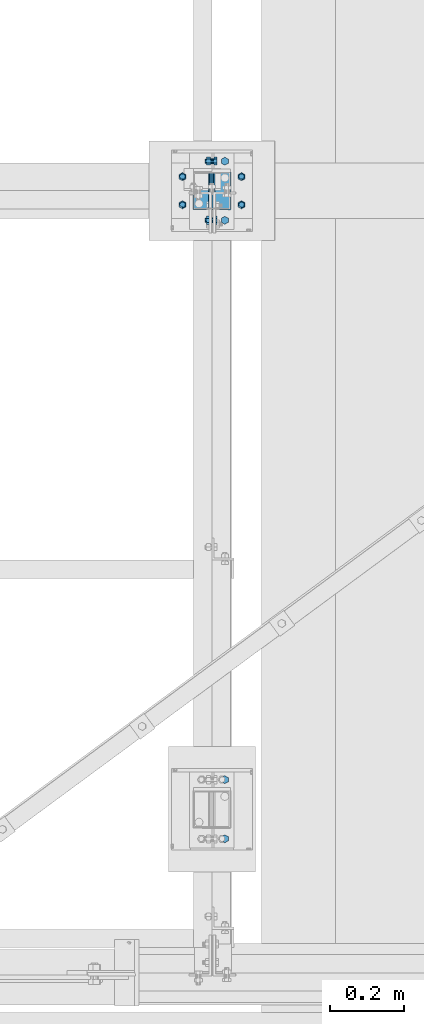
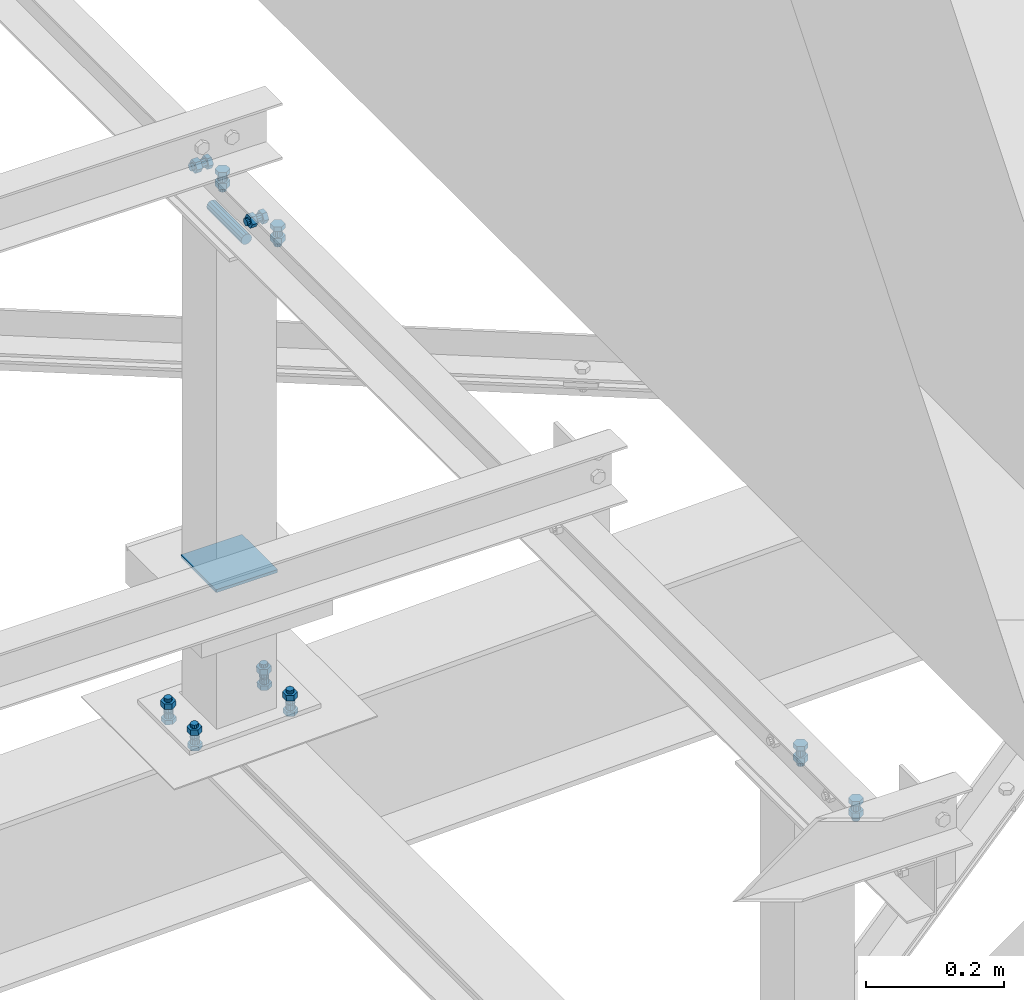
# One storey, part 19 of 3134: 7 mechanical fasteners, 5 elements without a shape of their own.
"""IFC2X3 building model written with IfcOpenShell, lengths in millimetres."""

from ifc_helpers import new_model, si_unit, frame, origin_with_axes, place, context, subcontext, project, spatial, faceted_brep, source, transform, mapped, material, type_object, element, aggregate, save


model = new_model("IFC2X3")

# Units and contexts
model_context = context("Model", 3, precision=1e-05, world=origin_with_axes())
body_context = subcontext(model_context, "Body", "Model", "MODEL_VIEW")
ifc_project = project(units=[si_unit("LENGTHUNIT", "METRE", prefix="MILLI"), si_unit("AREAUNIT", "SQUARE_METRE"), si_unit("VOLUMEUNIT", "CUBIC_METRE"), si_unit("MASSUNIT", "GRAM", prefix="KILO"), si_unit("TIMEUNIT", "SECOND"), si_unit("PLANEANGLEUNIT", "RADIAN"), si_unit("SOLIDANGLEUNIT", "STERADIAN"), si_unit("THERMODYNAMICTEMPERATUREUNIT", "DEGREE_CELSIUS"), si_unit("LUMINOUSINTENSITYUNIT", "LUMEN")], contexts=[model_context])

# Site, building, storey
site_placement = place(None, origin_with_axes())
site = spatial("IfcSite", under=ifc_project, at=site_placement, CompositionType="ELEMENT")
building_placement = place(site_placement, origin_with_axes())
building = spatial("IfcBuilding", under=site, at=building_placement, Name="Undefined", CompositionType="ELEMENT")
storey_placement = place(building_placement, origin_with_axes())
storey = spatial("IfcBuildingStorey", under=building, at=storey_placement, Name="Undefined", CompositionType="ELEMENT", Elevation=0.0)

# Assembly, mechanical fastener
assembly_1_placement = place(storey_placement, origin_with_axes())
assembly_1 = element("IfcElementAssembly", 1, at=assembly_1_placement, inside=storey, AssemblyPlace="NOTDEFINED", PredefinedType="RIGID_FRAME")
ifc_material_1 = material(Name="8.8")
mechanical_fastener_type = type_object("IfcMechanicalFastenerType", Name="Bolt assembly")
shared_shape_1 = source(origin_with_axes(), body_context, "Body", "Brep", [
    faceted_brep([(10.9696551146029, -14.0, 0.0), (5.48482755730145, -14.0, 9.5), (-5.48482755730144, -14.0, 9.5), (-10.9696551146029, -14.0, 1.34339530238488e-15), (-5.48482755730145, -14.0, -9.5), (5.48482755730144, -14.0, -9.50000000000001), (5.48482755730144, -6.0, -9.50000000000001), (-5.48482755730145, -6.0, -9.5), (-10.9696551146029, -6.0, 1.34339530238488e-15), (-5.48482755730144, -6.0, 9.5), (5.48482755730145, -6.0, 9.5), (10.9696551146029, -6.0, 0.0), (6.0, -6.0, 0.0), (5.19615242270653, -6.0, 3.00000000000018), (2.99999999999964, -6.0, 5.19615242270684), (-6.21801588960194e-13, -6.0, 6.0), (-3.00000000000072, -6.0, 5.19615242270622), (-5.19615242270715, -6.0, 2.9999999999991), (-6.0, -6.0, -1.24360317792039e-12), (-5.19615242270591, -6.0, -3.00000000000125), (-2.99999999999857, -6.0, -5.19615242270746), (1.85874342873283e-12, -6.0, -6.0), (3.00000000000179, -6.0, -5.1961524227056), (5.19615242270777, -6.0, -2.99999999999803), (5.19615242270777, 24.0, -2.99999999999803), (3.00000000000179, 24.0, -5.1961524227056), (1.85874342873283e-12, 24.0, -6.0), (-2.99999999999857, 24.0, -5.19615242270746), (-5.19615242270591, 24.0, -3.00000000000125), (-6.0, 24.0, -1.24360317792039e-12), (-5.19615242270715, 24.0, 2.9999999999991), (-3.00000000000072, 24.0, 5.19615242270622), (-6.21801588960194e-13, 24.0, 6.0), (2.99999999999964, 24.0, 5.19615242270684), (5.19615242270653, 24.0, 3.00000000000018), (6.0, 24.0, 0.0), (10.9696551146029, 6.00000000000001, 0.0), (5.48482755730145, 6.00000000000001, 9.5), (-5.48482755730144, 6.00000000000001, 9.5), (-10.9696551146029, 6.00000000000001, 1.34339530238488e-15), (-5.48482755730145, 6.00000000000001, -9.5), (5.48482755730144, 6.00000000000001, -9.50000000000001), (5.48482755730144, 16.0, -9.50000000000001), (-5.48482755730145, 16.0, -9.5), (-10.9696551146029, 16.0, 1.34339530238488e-15), (-5.48482755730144, 16.0, 9.5), (5.48482755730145, 16.0, 9.5), (10.9696551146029, 16.0, 0.0)], [[[0, 1, 2, 3, 4, 5]], [[6, 7, 8, 9, 10, 11]], [[0, 11, 10, 1]], [[1, 10, 9, 2]], [[2, 9, 8, 3]], [[3, 8, 7, 4]], [[4, 7, 6, 5]], [[5, 6, 11, 0]], [[12, 13, 14, 15, 16, 17, 18, 19, 20, 21, 22, 23]], [[24, 25, 26, 27, 28, 29, 30, 31, 32, 33, 34, 35]], [[12, 35, 34, 13]], [[13, 34, 33, 14]], [[14, 33, 32, 15]], [[15, 32, 31, 16]], [[16, 31, 30, 17]], [[17, 30, 29, 18]], [[18, 29, 28, 19]], [[19, 28, 27, 20]], [[20, 27, 26, 21]], [[21, 26, 25, 22]], [[22, 25, 24, 23]], [[23, 24, 35, 12]], [[36, 37, 38, 39, 40, 41]], [[42, 43, 44, 45, 46, 47]], [[36, 47, 46, 37]], [[37, 46, 45, 38]], [[38, 45, 44, 39]], [[39, 44, 43, 40]], [[40, 43, 42, 41]], [[41, 42, 47, 36]]]),
    faceted_brep([(7.0, -5.9, 0.0), (6.06217782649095, -5.9, 3.50000000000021), (3.49999999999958, -5.9, 6.06217782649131), (-7.25435187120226e-13, -5.9, 7.0), (-3.50000000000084, -5.9, 6.06217782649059), (-6.06217782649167, -5.9, 3.49999999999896), (-7.0, -5.9, -1.45087037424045e-12), (-6.06217782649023, -5.9, -3.50000000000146), (-3.49999999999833, -5.9, -6.06217782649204), (2.1685340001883e-12, -5.9, -7.0), (3.50000000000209, -5.9, -6.06217782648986), (6.0621778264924, -5.9, -3.4999999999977), (6.0621778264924, 0.0999999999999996, -3.4999999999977), (3.50000000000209, 0.0999999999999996, -6.06217782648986), (2.1685340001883e-12, 0.0999999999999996, -7.0), (-3.49999999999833, 0.0999999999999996, -6.06217782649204), (-6.06217782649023, 0.0999999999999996, -3.50000000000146), (-7.0, 0.0999999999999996, -1.45087037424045e-12), (-6.06217782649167, 0.0999999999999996, 3.49999999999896), (-3.50000000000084, 0.0999999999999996, 6.06217782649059), (-7.25435187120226e-13, 0.0999999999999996, 7.0), (3.49999999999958, 0.0999999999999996, 6.06217782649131), (6.06217782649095, 0.0999999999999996, 3.50000000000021), (7.0, 0.0999999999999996, 0.0), (7.0, -0.1, 0.0), (6.06217782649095, -0.1, 3.50000000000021), (3.49999999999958, -0.1, 6.06217782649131), (-7.25435187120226e-13, -0.1, 7.0), (-3.50000000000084, -0.1, 6.06217782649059), (-6.06217782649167, -0.1, 3.49999999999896), (-7.0, -0.1, -1.45087037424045e-12), (-6.06217782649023, -0.1, -3.50000000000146), (-3.49999999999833, -0.1, -6.06217782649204), (2.1685340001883e-12, -0.1, -7.0), (3.50000000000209, -0.1, -6.06217782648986), (6.0621778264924, -0.1, -3.4999999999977), (6.0621778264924, 6.00000000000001, -3.4999999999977), (3.50000000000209, 6.00000000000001, -6.06217782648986), (2.1685340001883e-12, 6.00000000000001, -7.0), (-3.49999999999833, 6.00000000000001, -6.06217782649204), (-6.06217782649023, 6.00000000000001, -3.50000000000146), (-7.0, 6.00000000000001, -1.45087037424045e-12), (-6.06217782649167, 6.00000000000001, 3.49999999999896), (-3.50000000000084, 6.00000000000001, 6.06217782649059), (-7.25435187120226e-13, 6.00000000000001, 7.0), (3.49999999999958, 6.00000000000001, 6.06217782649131), (6.06217782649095, 6.00000000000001, 3.50000000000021), (7.0, 6.00000000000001, 0.0)], [[[0, 1, 2, 3, 4, 5, 6, 7, 8, 9, 10, 11]], [[12, 13, 14, 15, 16, 17, 18, 19, 20, 21, 22, 23]], [[0, 23, 22, 1]], [[1, 22, 21, 2]], [[2, 21, 20, 3]], [[3, 20, 19, 4]], [[4, 19, 18, 5]], [[5, 18, 17, 6]], [[6, 17, 16, 7]], [[7, 16, 15, 8]], [[8, 15, 14, 9]], [[9, 14, 13, 10]], [[10, 13, 12, 11]], [[11, 12, 23, 0]], [[24, 25, 26, 27, 28, 29, 30, 31, 32, 33, 34, 35]], [[36, 37, 38, 39, 40, 41, 42, 43, 44, 45, 46, 47]], [[24, 47, 46, 25]], [[25, 46, 45, 26]], [[26, 45, 44, 27]], [[27, 44, 43, 28]], [[28, 43, 42, 29]], [[29, 42, 41, 30]], [[30, 41, 40, 31]], [[31, 40, 39, 32]], [[32, 39, 38, 33]], [[33, 38, 37, 34]], [[34, 37, 36, 35]], [[35, 36, 47, 24]]]),
])
mechanical_fastener_1_placement = place(assembly_1_placement, frame((10440.0, 11305.0, 4265.0), z_axis=(-1.0, 0.0, 0.0), x_axis=(0.0, 1.0, 0.0)))
mechanical_fastener_1 = element("IfcMechanicalFastener", 2, at=mechanical_fastener_1_placement, type_object=mechanical_fastener_type, material=ifc_material_1, Name="Bolt assembly", NominalDiameter=12.0, NominalLength=30.0, context=body_context, shape_type="MappedRepresentation", body=[
    mapped(shared_shape_1, transform((0.0, 0.0, 0.0))),
    mapped(shared_shape_1, transform((160.0, 0.0, 0.0))),
])
aggregate(assembly_1, [mechanical_fastener_1])

assembly_2_placement = place(storey_placement, origin_with_axes())
assembly_2 = element("IfcElementAssembly", 3, at=assembly_2_placement, inside=storey, AssemblyPlace="NOTDEFINED", PredefinedType="RIGID_FRAME")
mechanical_fastener_2_placement = place(assembly_2_placement, frame((10440.0, 12980.0, 4265.0), z_axis=(-1.0, 0.0, 0.0), x_axis=(0.0, 1.0, 0.0)))
mechanical_fastener_2 = element("IfcMechanicalFastener", 4, at=mechanical_fastener_2_placement, type_object=mechanical_fastener_type, material=ifc_material_1, Name="Bolt assembly", NominalDiameter=12.0, NominalLength=30.0, context=body_context, shape_type="MappedRepresentation", body=[
    mapped(shared_shape_1, transform((0.0, 0.0, 0.0))),
    mapped(shared_shape_1, transform((160.0, 0.0, 0.0))),
])

assembly_3_placement = place(storey_placement, origin_with_axes())
assembly_3 = element("IfcElementAssembly", 5, at=assembly_3_placement, inside=storey, AssemblyPlace="NOTDEFINED", PredefinedType="RIGID_FRAME")
shared_shape_2 = source(origin_with_axes(), body_context, "Body", "Brep", [
    faceted_brep([(10.9696551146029, -14.0, 0.0), (5.48482755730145, -14.0, 9.5), (-5.48482755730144, -14.0, 9.5), (-10.9696551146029, -14.0, 1.34339530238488e-15), (-5.48482755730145, -14.0, -9.5), (5.48482755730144, -14.0, -9.50000000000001), (5.48482755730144, -6.0, -9.50000000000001), (-5.48482755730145, -6.0, -9.5), (-10.9696551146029, -6.0, 1.34339530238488e-15), (-5.48482755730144, -6.0, 9.5), (5.48482755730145, -6.0, 9.5), (10.9696551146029, -6.0, 0.0), (6.0, -6.0, 0.0), (5.19615242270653, -6.0, 3.00000000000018), (2.99999999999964, -6.0, 5.19615242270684), (-6.21801588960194e-13, -6.0, 6.0), (-3.00000000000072, -6.0, 5.19615242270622), (-5.19615242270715, -6.0, 2.9999999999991), (-6.0, -6.0, -1.24360317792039e-12), (-5.19615242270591, -6.0, -3.00000000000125), (-2.99999999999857, -6.0, -5.19615242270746), (1.85874342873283e-12, -6.0, -6.0), (3.00000000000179, -6.0, -5.1961524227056), (5.19615242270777, -6.0, -2.99999999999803), (5.19615242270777, 19.0, -2.99999999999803), (3.00000000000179, 19.0, -5.1961524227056), (1.85874342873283e-12, 19.0, -6.0), (-2.99999999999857, 19.0, -5.19615242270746), (-5.19615242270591, 19.0, -3.00000000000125), (-6.0, 19.0, -1.24360317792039e-12), (-5.19615242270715, 19.0, 2.9999999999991), (-3.00000000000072, 19.0, 5.19615242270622), (-6.21801588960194e-13, 19.0, 6.0), (2.99999999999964, 19.0, 5.19615242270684), (5.19615242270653, 19.0, 3.00000000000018), (6.0, 19.0, 0.0), (10.9696551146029, 4.00000000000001, 0.0), (5.48482755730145, 4.00000000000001, 9.5), (-5.48482755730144, 4.00000000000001, 9.5), (-10.9696551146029, 4.00000000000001, 1.34339530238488e-15), (-5.48482755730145, 4.00000000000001, -9.5), (5.48482755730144, 4.00000000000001, -9.50000000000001), (5.48482755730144, 14.0, -9.50000000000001), (-5.48482755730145, 14.0, -9.5), (-10.9696551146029, 14.0, 1.34339530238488e-15), (-5.48482755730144, 14.0, 9.5), (5.48482755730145, 14.0, 9.5), (10.9696551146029, 14.0, 0.0)], [[[0, 1, 2, 3, 4, 5]], [[6, 7, 8, 9, 10, 11]], [[0, 11, 10, 1]], [[1, 10, 9, 2]], [[2, 9, 8, 3]], [[3, 8, 7, 4]], [[4, 7, 6, 5]], [[5, 6, 11, 0]], [[12, 13, 14, 15, 16, 17, 18, 19, 20, 21, 22, 23]], [[24, 25, 26, 27, 28, 29, 30, 31, 32, 33, 34, 35]], [[12, 35, 34, 13]], [[13, 34, 33, 14]], [[14, 33, 32, 15]], [[15, 32, 31, 16]], [[16, 31, 30, 17]], [[17, 30, 29, 18]], [[18, 29, 28, 19]], [[19, 28, 27, 20]], [[20, 27, 26, 21]], [[21, 26, 25, 22]], [[22, 25, 24, 23]], [[23, 24, 35, 12]], [[36, 37, 38, 39, 40, 41]], [[42, 43, 44, 45, 46, 47]], [[36, 47, 46, 37]], [[37, 46, 45, 38]], [[38, 45, 44, 39]], [[39, 44, 43, 40]], [[40, 43, 42, 41]], [[41, 42, 47, 36]]]),
    faceted_brep([(7.0, -0.1, 0.0), (6.06217782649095, -0.1, 3.50000000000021), (3.49999999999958, -0.1, 6.06217782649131), (-7.25435187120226e-13, -0.1, 7.0), (-3.50000000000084, -0.1, 6.06217782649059), (-6.06217782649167, -0.1, 3.49999999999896), (-7.0, -0.1, -1.45087037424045e-12), (-6.06217782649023, -0.1, -3.50000000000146), (-3.49999999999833, -0.1, -6.06217782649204), (2.1685340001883e-12, -0.1, -7.0), (3.50000000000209, -0.1, -6.06217782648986), (6.0621778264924, -0.1, -3.4999999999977), (6.0621778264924, 4.00000000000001, -3.4999999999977), (3.50000000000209, 4.00000000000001, -6.06217782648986), (2.1685340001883e-12, 4.00000000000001, -7.0), (-3.49999999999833, 4.00000000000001, -6.06217782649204), (-6.06217782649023, 4.00000000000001, -3.50000000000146), (-7.0, 4.00000000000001, -1.45087037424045e-12), (-6.06217782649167, 4.00000000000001, 3.49999999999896), (-3.50000000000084, 4.00000000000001, 6.06217782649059), (-7.25435187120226e-13, 4.00000000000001, 7.0), (3.49999999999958, 4.00000000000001, 6.06217782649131), (6.06217782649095, 4.00000000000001, 3.50000000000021), (7.0, 4.00000000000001, 0.0), (7.0, -5.9, 0.0), (6.06217782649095, -5.9, 3.50000000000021), (3.49999999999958, -5.9, 6.06217782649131), (-7.25435187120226e-13, -5.9, 7.0), (-3.50000000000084, -5.9, 6.06217782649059), (-6.06217782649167, -5.9, 3.49999999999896), (-7.0, -5.9, -1.45087037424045e-12), (-6.06217782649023, -5.9, -3.50000000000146), (-3.49999999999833, -5.9, -6.06217782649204), (2.1685340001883e-12, -5.9, -7.0), (3.50000000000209, -5.9, -6.06217782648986), (6.0621778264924, -5.9, -3.4999999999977), (6.0621778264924, 0.0999999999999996, -3.4999999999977), (3.50000000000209, 0.0999999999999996, -6.06217782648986), (2.1685340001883e-12, 0.0999999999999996, -7.0), (-3.49999999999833, 0.0999999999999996, -6.06217782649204), (-6.06217782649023, 0.0999999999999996, -3.50000000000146), (-7.0, 0.0999999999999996, -1.45087037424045e-12), (-6.06217782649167, 0.0999999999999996, 3.49999999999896), (-3.50000000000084, 0.0999999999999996, 6.06217782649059), (-7.25435187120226e-13, 0.0999999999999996, 7.0), (3.49999999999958, 0.0999999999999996, 6.06217782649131), (6.06217782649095, 0.0999999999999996, 3.50000000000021), (7.0, 0.0999999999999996, 0.0)], [[[0, 1, 2, 3, 4, 5, 6, 7, 8, 9, 10, 11]], [[12, 13, 14, 15, 16, 17, 18, 19, 20, 21, 22, 23]], [[0, 23, 22, 1]], [[1, 22, 21, 2]], [[2, 21, 20, 3]], [[3, 20, 19, 4]], [[4, 19, 18, 5]], [[5, 18, 17, 6]], [[6, 17, 16, 7]], [[7, 16, 15, 8]], [[8, 15, 14, 9]], [[9, 14, 13, 10]], [[10, 13, 12, 11]], [[11, 12, 23, 0]], [[24, 25, 26, 27, 28, 29, 30, 31, 32, 33, 34, 35]], [[36, 37, 38, 39, 40, 41, 42, 43, 44, 45, 46, 47]], [[24, 47, 46, 25]], [[25, 46, 45, 26]], [[26, 45, 44, 27]], [[27, 44, 43, 28]], [[28, 43, 42, 29]], [[29, 42, 41, 30]], [[30, 41, 40, 31]], [[31, 40, 39, 32]], [[32, 39, 38, 33]], [[33, 38, 37, 34]], [[34, 37, 36, 35]], [[35, 36, 47, 24]]]),
])
mechanical_fastener_3_placement = place(assembly_3_placement, frame((10405.0, 12980.0, 4300.0), z_axis=(0.0, 0.0, 1.0), x_axis=(0.0, 1.0, 0.0)))
mechanical_fastener_3 = element("IfcMechanicalFastener", 6, at=mechanical_fastener_3_placement, type_object=mechanical_fastener_type, material=ifc_material_1, Name="Bolt assembly", NominalDiameter=12.0, NominalLength=25.0, context=body_context, shape_type="MappedRepresentation", body=[
    mapped(shared_shape_2, transform((0.0, 0.0, 0.0))),
    mapped(shared_shape_2, transform((160.0, 0.0, 0.0))),
])
aggregate(assembly_3, [mechanical_fastener_3])

assembly_4_placement = place(storey_placement, origin_with_axes())
assembly_4 = element("IfcElementAssembly", 7, at=assembly_4_placement, inside=storey, Name="300", AssemblyPlace="NOTDEFINED", PredefinedType="RIGID_FRAME")
shared_shape_3 = source(origin_with_axes(), body_context, "Body", "Brep", [
    faceted_brep([(10.9696551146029, -4.1984682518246, 0.0), (5.48482755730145, -4.1984682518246, 9.5), (-5.48482755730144, -4.1984682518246, 9.5), (-10.9696551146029, -4.1984682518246, 1.34339530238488e-15), (-5.48482755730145, -4.1984682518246, -9.5), (5.48482755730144, -4.1984682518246, -9.50000000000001), (5.48482755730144, 3.8015317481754, -9.50000000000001), (-5.48482755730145, 3.8015317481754, -9.5), (-10.9696551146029, 3.8015317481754, 1.34339530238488e-15), (-5.48482755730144, 3.8015317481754, 9.5), (5.48482755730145, 3.8015317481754, 9.5), (10.9696551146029, 3.8015317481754, 0.0), (6.0, 3.8015317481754, 0.0), (5.19615242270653, 3.8015317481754, 3.00000000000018), (2.99999999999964, 3.8015317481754, 5.19615242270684), (-6.21801588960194e-13, 3.8015317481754, 6.0), (-3.00000000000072, 3.8015317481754, 5.19615242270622), (-5.19615242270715, 3.8015317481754, 2.9999999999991), (-6.0, 3.8015317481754, -1.24360317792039e-12), (-5.19615242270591, 3.8015317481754, -3.00000000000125), (-2.99999999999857, 3.8015317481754, -5.19615242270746), (1.85874342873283e-12, 3.8015317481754, -6.0), (3.00000000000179, 3.8015317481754, -5.1961524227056), (5.19615242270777, 3.8015317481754, -2.99999999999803), (5.19615242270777, 38.8015317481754, -2.99999999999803), (3.00000000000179, 38.8015317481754, -5.1961524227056), (1.85874342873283e-12, 38.8015317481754, -6.0), (-2.99999999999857, 38.8015317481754, -5.19615242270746), (-5.19615242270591, 38.8015317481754, -3.00000000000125), (-6.0, 38.8015317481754, -1.24360317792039e-12), (-5.19615242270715, 38.8015317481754, 2.9999999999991), (-3.00000000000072, 38.8015317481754, 5.19615242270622), (-6.21801588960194e-13, 38.8015317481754, 6.0), (2.99999999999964, 38.8015317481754, 5.19615242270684), (5.19615242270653, 38.8015317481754, 3.00000000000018), (6.0, 38.8015317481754, 0.0), (10.9696551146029, 23.0039050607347, 0.0), (5.48482755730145, 23.0039050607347, 9.5), (-5.48482755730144, 23.0039050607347, 9.5), (-10.9696551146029, 23.0039050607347, 1.34339530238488e-15), (-5.48482755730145, 23.0039050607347, -9.5), (5.48482755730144, 23.0039050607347, -9.50000000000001), (5.48482755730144, 33.0039050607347, -9.50000000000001), (-5.48482755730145, 33.0039050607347, -9.5), (-10.9696551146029, 33.0039050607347, 1.34339530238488e-15), (-5.48482755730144, 33.0039050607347, 9.5), (5.48482755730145, 33.0039050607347, 9.5), (10.9696551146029, 33.0039050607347, 0.0)], [[[0, 1, 2, 3, 4, 5]], [[6, 7, 8, 9, 10, 11]], [[0, 11, 10, 1]], [[1, 10, 9, 2]], [[2, 9, 8, 3]], [[3, 8, 7, 4]], [[4, 7, 6, 5]], [[5, 6, 11, 0]], [[12, 13, 14, 15, 16, 17, 18, 19, 20, 21, 22, 23]], [[24, 25, 26, 27, 28, 29, 30, 31, 32, 33, 34, 35]], [[12, 35, 34, 13]], [[13, 34, 33, 14]], [[14, 33, 32, 15]], [[15, 32, 31, 16]], [[16, 31, 30, 17]], [[17, 30, 29, 18]], [[18, 29, 28, 19]], [[19, 28, 27, 20]], [[20, 27, 26, 21]], [[21, 26, 25, 22]], [[22, 25, 24, 23]], [[23, 24, 35, 12]], [[36, 37, 38, 39, 40, 41]], [[42, 43, 44, 45, 46, 47]], [[36, 47, 46, 37]], [[37, 46, 45, 38]], [[38, 45, 44, 39]], [[39, 44, 43, 40]], [[40, 43, 42, 41]], [[41, 42, 47, 36]]]),
    faceted_brep([(7.0, 14.9039050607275, 0.0), (6.06217782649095, 14.9039050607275, 3.50000000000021), (3.49999999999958, 14.9039050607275, 6.06217782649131), (-7.25435187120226e-13, 14.9039050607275, 7.0), (-3.50000000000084, 14.9039050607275, 6.06217782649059), (-6.06217782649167, 14.9039050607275, 3.49999999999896), (-7.0, 14.9039050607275, -1.45087037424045e-12), (-6.06217782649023, 14.9039050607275, -3.50000000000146), (-3.49999999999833, 14.9039050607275, -6.06217782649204), (2.1685340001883e-12, 14.9039050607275, -7.0), (3.50000000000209, 14.9039050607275, -6.06217782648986), (6.0621778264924, 14.9039050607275, -3.4999999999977), (6.0621778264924, 23.0039050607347, -3.4999999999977), (3.50000000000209, 23.0039050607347, -6.06217782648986), (2.1685340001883e-12, 23.0039050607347, -7.0), (-3.49999999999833, 23.0039050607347, -6.06217782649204), (-6.06217782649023, 23.0039050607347, -3.50000000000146), (-7.0, 23.0039050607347, -1.45087037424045e-12), (-6.06217782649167, 23.0039050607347, 3.49999999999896), (-3.50000000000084, 23.0039050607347, 6.06217782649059), (-7.25435187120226e-13, 23.0039050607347, 7.0), (3.49999999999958, 23.0039050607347, 6.06217782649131), (6.06217782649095, 23.0039050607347, 3.50000000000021), (7.0, 23.0039050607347, 0.0), (7.0, 3.9015317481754, 0.0), (6.06217782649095, 3.9015317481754, 3.50000000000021), (3.49999999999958, 3.9015317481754, 6.06217782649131), (-7.25435187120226e-13, 3.9015317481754, 7.0), (-3.50000000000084, 3.9015317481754, 6.06217782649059), (-6.06217782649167, 3.9015317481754, 3.49999999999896), (-7.0, 3.9015317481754, -1.45087037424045e-12), (-6.06217782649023, 3.9015317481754, -3.50000000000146), (-3.49999999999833, 3.9015317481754, -6.06217782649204), (2.1685340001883e-12, 3.9015317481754, -7.0), (3.50000000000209, 3.9015317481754, -6.06217782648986), (6.0621778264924, 3.9015317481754, -3.4999999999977), (6.0621778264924, 13.1015315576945, -3.4999999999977), (3.50000000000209, 13.1015315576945, -6.06217782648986), (2.1685340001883e-12, 13.1015315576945, -7.0), (-3.49999999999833, 13.1015315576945, -6.06217782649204), (-6.06217782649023, 13.1015315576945, -3.50000000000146), (-7.0, 13.1015315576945, -1.45087037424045e-12), (-6.06217782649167, 13.1015315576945, 3.49999999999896), (-3.50000000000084, 13.1015315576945, 6.06217782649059), (-7.25435187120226e-13, 13.1015315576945, 7.0), (3.49999999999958, 13.1015315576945, 6.06217782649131), (6.06217782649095, 13.1015315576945, 3.50000000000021), (7.0, 13.1015315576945, 0.0)], [[[0, 1, 2, 3, 4, 5, 6, 7, 8, 9, 10, 11]], [[12, 13, 14, 15, 16, 17, 18, 19, 20, 21, 22, 23]], [[0, 23, 22, 1]], [[1, 22, 21, 2]], [[2, 21, 20, 3]], [[3, 20, 19, 4]], [[4, 19, 18, 5]], [[5, 18, 17, 6]], [[6, 17, 16, 7]], [[7, 16, 15, 8]], [[8, 15, 14, 9]], [[9, 14, 13, 10]], [[10, 13, 12, 11]], [[11, 12, 23, 0]], [[24, 25, 26, 27, 28, 29, 30, 31, 32, 33, 34, 35]], [[36, 37, 38, 39, 40, 41, 42, 43, 44, 45, 46, 47]], [[24, 47, 46, 25]], [[25, 46, 45, 26]], [[26, 45, 44, 27]], [[27, 44, 43, 28]], [[28, 43, 42, 29]], [[29, 42, 41, 30]], [[30, 41, 40, 31]], [[31, 40, 39, 32]], [[32, 39, 38, 33]], [[33, 38, 37, 34]], [[34, 37, 36, 35]], [[35, 36, 47, 24]]]),
])
mechanical_fastener_4_placement = place(assembly_4_placement, frame((10405.7748812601, 13022.0, 3374.2272055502), z_axis=(0.999519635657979, 0.0, 0.0309919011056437), x_axis=(0.0, 1.0, 0.0)))
mechanical_fastener_4 = element("IfcMechanicalFastener", 8, at=mechanical_fastener_4_placement, type_object=mechanical_fastener_type, material=ifc_material_1, Name="Bolt assembly", NominalDiameter=12.0, NominalLength=35.0, context=body_context, shape_type="MappedRepresentation", body=[
    mapped(shared_shape_3, transform((0.0, -5.32963895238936e-10, -79.9999999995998))),
    mapped(shared_shape_3, transform((76.0, -5.32963895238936e-10, -79.9999999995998))),
    mapped(shared_shape_3, transform((0.0, 5.3114490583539e-10, 79.9999999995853))),
    mapped(shared_shape_3, transform((76.0, 5.3114490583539e-10, 79.9999999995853))),
])
aggregate(assembly_4, [mechanical_fastener_4])

assembly_5_placement = place(storey_placement, origin_with_axes())
assembly_5 = element("IfcElementAssembly", 9, at=assembly_5_placement, inside=storey, AssemblyPlace="NOTDEFINED", PredefinedType="RIGID_FRAME")
shared_shape_4 = source(origin_with_axes(), body_context, "Body", "Brep", [
    faceted_brep([(7.0, 13.0000253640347, 0.0), (6.06217782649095, 13.0000253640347, 3.50000000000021), (3.49999999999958, 13.0000253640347, 6.06217782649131), (-7.25435187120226e-13, 13.0000253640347, 7.0), (-3.50000000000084, 13.0000253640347, 6.06217782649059), (-6.06217782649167, 13.0000253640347, 3.49999999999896), (-7.0, 13.0000253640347, -1.45087037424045e-12), (-6.06217782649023, 13.0000253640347, -3.50000000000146), (-3.49999999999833, 13.0000253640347, -6.06217782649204), (2.1685340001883e-12, 13.0000253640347, -7.0), (3.50000000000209, 13.0000253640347, -6.06217782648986), (6.0621778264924, 13.0000253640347, -3.4999999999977), (6.0621778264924, 15.0999999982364, -3.4999999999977), (3.50000000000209, 15.0999999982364, -6.06217782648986), (2.1685340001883e-12, 15.0999999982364, -7.0), (-3.49999999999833, 15.0999999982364, -6.06217782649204), (-6.06217782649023, 15.0999999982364, -3.50000000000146), (-7.0, 15.0999999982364, -1.45087037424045e-12), (-6.06217782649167, 15.0999999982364, 3.49999999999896), (-3.50000000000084, 15.0999999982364, 6.06217782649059), (-7.25435187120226e-13, 15.0999999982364, 7.0), (3.49999999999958, 15.0999999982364, 6.06217782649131), (6.06217782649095, 15.0999999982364, 3.50000000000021), (7.0, 15.0999999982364, 0.0)], [[[0, 1, 2, 3, 4, 5, 6, 7, 8, 9, 10, 11]], [[12, 13, 14, 15, 16, 17, 18, 19, 20, 21, 22, 23]], [[0, 23, 22, 1]], [[1, 22, 21, 2]], [[2, 21, 20, 3]], [[3, 20, 19, 4]], [[4, 19, 18, 5]], [[5, 18, 17, 6]], [[6, 17, 16, 7]], [[7, 16, 15, 8]], [[8, 15, 14, 9]], [[9, 14, 13, 10]], [[10, 13, 12, 11]], [[11, 12, 23, 0]]]),
])
mechanical_fastener_5_placement = place(assembly_5_placement, frame((10405.7748812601, 13022.0, 3374.2272055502), z_axis=(0.999519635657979, 0.0, 0.0309919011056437), x_axis=(0.0, 1.0, 0.0)))
mechanical_fastener_5 = element("IfcMechanicalFastener", 10, at=mechanical_fastener_5_placement, type_object=mechanical_fastener_type, material=ifc_material_1, Name="Bolt assembly", NominalDiameter=12.0, NominalLength=2.0, context=body_context, shape_type="MappedRepresentation", body=[
    mapped(shared_shape_4, transform((0.0, -5.32963895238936e-10, -79.9999999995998))),
    mapped(shared_shape_4, transform((76.0, -5.32963895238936e-10, -79.9999999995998))),
    mapped(shared_shape_4, transform((0.0, 5.3114490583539e-10, 79.9999999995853))),
    mapped(shared_shape_4, transform((76.0, 5.3114490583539e-10, 79.9999999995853))),
])
aggregate(assembly_5, [mechanical_fastener_5])

# Mechanical fastener
shared_shape_5 = source(origin_with_axes(), body_context, "Body", "Brep", [
    faceted_brep([(9.0, -50.0, 0.0), (7.79422863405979, -50.0, 4.50000000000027), (4.49999999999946, -50.0, 7.79422863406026), (-9.3270238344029e-13, -50.0, 9.0), (-4.50000000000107, -50.0, 7.79422863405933), (-7.79422863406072, -50.0, 4.49999999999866), (-9.0, -50.0, -1.86540476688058e-12), (-7.79422863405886, -50.0, -4.50000000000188), (-4.49999999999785, -50.0, -7.79422863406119), (2.78811514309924e-12, -50.0, -9.0), (4.50000000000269, -50.0, -7.7942286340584), (7.79422863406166, -50.0, -4.49999999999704), (7.79422863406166, 50.1, -4.49999999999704), (4.50000000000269, 50.1, -7.7942286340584), (2.78811514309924e-12, 50.1, -9.0), (-4.49999999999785, 50.1, -7.79422863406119), (-7.79422863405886, 50.1, -4.50000000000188), (-9.0, 50.1, -1.86540476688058e-12), (-7.79422863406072, 50.1, 4.49999999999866), (-4.50000000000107, 50.1, 7.79422863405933), (-9.3270238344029e-13, 50.1, 9.0), (4.49999999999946, 50.1, 7.79422863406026), (7.79422863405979, 50.1, 4.50000000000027), (9.0, 50.1, 0.0)], [[[0, 1, 2, 3, 4, 5, 6, 7, 8, 9, 10, 11]], [[12, 13, 14, 15, 16, 17, 18, 19, 20, 21, 22, 23]], [[0, 23, 22, 1]], [[1, 22, 21, 2]], [[2, 21, 20, 3]], [[3, 20, 19, 4]], [[4, 19, 18, 5]], [[5, 18, 17, 6]], [[6, 17, 16, 7]], [[7, 16, 15, 8]], [[8, 15, 14, 9]], [[9, 14, 13, 10]], [[10, 13, 12, 11]], [[11, 12, 23, 0]]]),
])
mechanical_fastener_6_placement = place(assembly_2_placement, frame((10405.0, 13060.0, 4245.0), z_axis=(-1.0, 0.0, 0.0), x_axis=(0.0, 0.0, 1.0)))
mechanical_fastener_6 = element("IfcMechanicalFastener", 11, at=mechanical_fastener_6_placement, type_object=mechanical_fastener_type, material=ifc_material_1, Name="Bolt assembly", NominalDiameter=16.0, NominalLength=100.0, context=body_context, shape_type="MappedRepresentation", body=[
    mapped(shared_shape_5, transform((0.0, 0.0, 0.0))),
])

ifc_material_2 = material(Name="6.8")
shared_shape_6 = source(origin_with_axes(), body_context, "Body", "Brep", [
    faceted_brep([(51.5, 1.36424205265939e-12, 50.0), (51.3858192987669, 1.36424205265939e-12, 50.5740251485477), (51.0606601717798, 1.36424205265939e-12, 51.0606601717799), (50.5740251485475, 1.36424205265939e-12, 51.385819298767), (-50.0000000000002, 1.36424205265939e-12, 51.5), (-50.7500000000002, 1.36424205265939e-12, 51.2990381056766), (-51.2990381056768, 1.36424205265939e-12, 50.7499999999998), (-51.5, 1.36424205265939e-12, 49.9999999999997), (-51.5, 1.36424205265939e-12, -50.0000000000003), (-51.2990381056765, 1.36424205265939e-12, -50.7500000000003), (-50.7499999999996, 1.36424205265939e-12, -51.2990381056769), (-49.9999999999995, 1.36424205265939e-12, -51.5), (50.0000000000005, 1.36424205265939e-12, -51.5), (50.7500000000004, 1.36424205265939e-12, -51.2990381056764), (51.2990381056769, 1.36424205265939e-12, -50.7499999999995), (51.5, 1.36424205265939e-12, -49.9999999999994), (51.5, 5.10000000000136, -49.9999999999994), (51.2990381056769, 5.10000000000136, -50.7499999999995), (50.7500000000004, 5.10000000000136, -51.2990381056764), (50.0000000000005, 5.10000000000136, -51.5), (-49.9999999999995, 5.10000000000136, -51.5), (-50.7499999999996, 5.10000000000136, -51.2990381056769), (-51.2990381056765, 5.10000000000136, -50.7500000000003), (-51.5, 5.10000000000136, -50.0000000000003), (-51.5, 5.10000000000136, 49.9999999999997), (-51.2990381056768, 5.10000000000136, 50.7499999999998), (-50.7500000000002, 5.10000000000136, 51.2990381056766), (-50.0000000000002, 5.10000000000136, 51.5), (50.5740251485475, 5.10000000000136, 51.385819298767), (51.0606601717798, 5.10000000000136, 51.0606601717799), (51.3858192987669, 5.10000000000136, 50.5740251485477), (51.5, 5.10000000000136, 50.0)], [[[0, 1, 2, 3, 4, 5, 6, 7, 8, 9, 10, 11, 12, 13, 14, 15]], [[16, 17, 18, 19, 20, 21, 22, 23, 24, 25, 26, 27, 28, 29, 30, 31]], [[0, 31, 30, 1]], [[1, 30, 29, 2]], [[2, 29, 28, 3]], [[3, 28, 27, 4]], [[4, 27, 26, 5]], [[5, 26, 25, 6]], [[6, 25, 24, 7]], [[7, 24, 23, 8]], [[8, 23, 22, 9]], [[9, 22, 21, 10]], [[10, 21, 20, 11]], [[11, 20, 19, 12]], [[12, 19, 18, 13]], [[13, 18, 17, 14]], [[14, 17, 16, 15]], [[15, 16, 31, 0]]]),
])
mechanical_fastener_7_placement = place(assembly_2_placement, frame((10405.0, 13060.0, 3643.81), z_axis=(0.0, -1.0, 0.0), x_axis=(-1.0, 0.0, 0.0)))
mechanical_fastener_7 = element("IfcMechanicalFastener", 12, at=mechanical_fastener_7_placement, type_object=mechanical_fastener_type, material=ifc_material_2, Name="Bolt assembly", NominalDiameter=10.0, NominalLength=5.0, context=body_context, shape_type="MappedRepresentation", body=[
    mapped(shared_shape_6, transform((0.0, 0.0, 0.0))),
])

aggregate(assembly_2, [mechanical_fastener_2, mechanical_fastener_6, mechanical_fastener_7])

save(model, "model.ifc")
